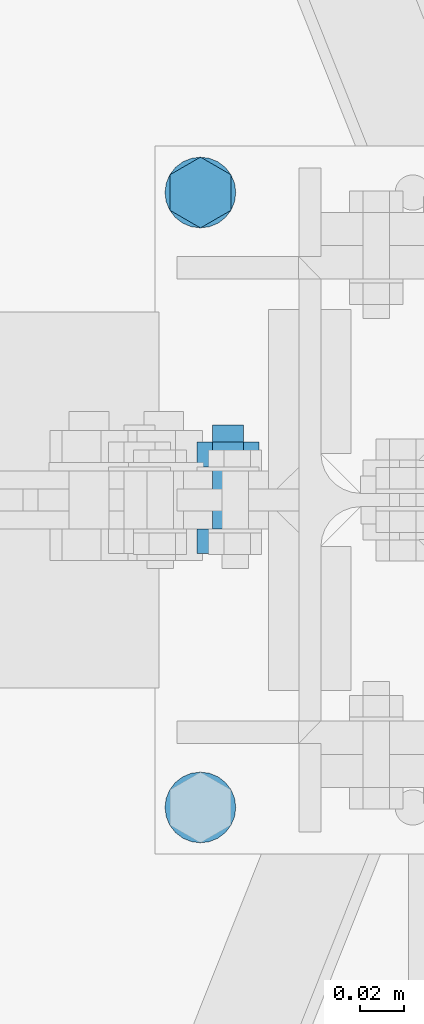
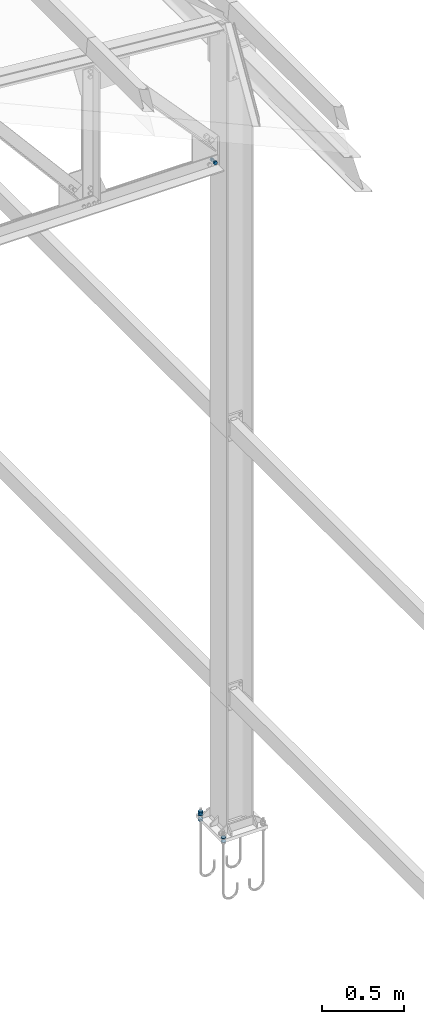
# One storey, part 110 of 251: 10 mechanical fasteners.
"""IFC4 building model written with IfcOpenShell, lengths in metres."""

import ifcopenshell
import ifcopenshell.guid

model = None  # the IFC model being written
_history = None  # IfcOwnerHistory: only IFC2X3 demands one
_inside = {}  # id of a spatial element -> (the spatial element, [elements in it])
_under = {}  # id of a project, library or spatial element -> (it, [spatial elements below it])
_declared = {}  # id of a project -> (the project, [libraries it declares])
_typed = {}  # id of a type object -> (the type object, [elements of that type])
_made_of = {}  # id of a material, layer set ... -> (it, [elements and type objects made of it])


def new_model(schema):
    """Start an empty IFC model of exactly this schema.

    Asked for "IFC4X3", IfcOpenShell would pick the latest addendum, in which some entities
    have other attributes; the version numbers below select the first issue.
    IFC2X3 requires an IfcOwnerHistory on every rooted entity: one is made here for all.
    """
    global model, _history
    if schema == "IFC4X3":
        model = ifcopenshell.file(schema_version=(4, 3, 0, 0))
    else:
        model = ifcopenshell.file(schema=schema)
    _inside.clear()
    _under.clear()
    _declared.clear()
    _typed.clear()
    _made_of.clear()
    _history = None
    if model.schema == "IFC2X3":
        org = make("IfcOrganization", Name="unknown")
        user = make(
            "IfcPersonAndOrganization",
            ThePerson=make("IfcPerson", FamilyName="unknown"),
            TheOrganization=org,
        )
        app = make(
            "IfcApplication",
            ApplicationDeveloper=org,
            Version="unknown",
            ApplicationFullName="unknown",
            ApplicationIdentifier="unknown",
        )
        _history = make(
            "IfcOwnerHistory",
            OwningUser=user,
            OwningApplication=app,
            ChangeAction="ADDED",
            CreationDate=0,
        )
    return model


def make(cls, **values):
    """One entity of the class cls with the attributes given. An attribute that is None is left unset."""
    return model.create_entity(
        cls, **{name: value for name, value in values.items() if value is not None}
    )


def rooted(cls, **values):
    """An entity with a GlobalId (a new one), such as an element, a storey or a relation."""
    return make(cls, GlobalId=ifcopenshell.guid.new(), OwnerHistory=_history, **values)


def si_unit(unit_type, name, prefix=None):
    """IfcSIUnit, for example si_unit("LENGTHUNIT", "METRE", prefix="MILLI")."""
    return make("IfcSIUnit", UnitType=unit_type, Prefix=prefix, Name=name)


def assignment(units):
    """IfcUnitAssignment: the units of a project."""
    return None if units is None else make("IfcUnitAssignment", Units=units)


def point(xyz):
    """IfcCartesianPoint."""
    return None if xyz is None else make("IfcCartesianPoint", Coordinates=xyz)


def direction(xyz):
    """IfcDirection."""
    return None if xyz is None else make("IfcDirection", DirectionRatios=xyz)


def frame(location, z_axis=None, x_axis=None):
    """IfcAxis2Placement3D, a coordinate frame: its origin and axes. An axis left out is left unset."""
    return make(
        "IfcAxis2Placement3D",
        Location=point(location),
        Axis=direction(z_axis),
        RefDirection=direction(x_axis),
    )


def origin_with_axes():
    """The frame at (0, 0, 0) with the z axis (0, 0, 1) and the x axis (1, 0, 0) written out."""
    return frame((0.0, 0.0, 0.0), z_axis=(0.0, 0.0, 1.0), x_axis=(1.0, 0.0, 0.0))


def place(relative_to, where):
    """IfcLocalPlacement: puts the frame where relative to a parent placement (None: the world)."""
    return make(
        "IfcLocalPlacement", PlacementRelTo=relative_to, RelativePlacement=where
    )


def context(
    kind, dimensions, precision=None, world=None, true_north=None, identifier=None
):
    """IfcGeometricRepresentationContext, for example the 3D "Model" context."""
    return make(
        "IfcGeometricRepresentationContext",
        ContextIdentifier=identifier,
        ContextType=kind,
        CoordinateSpaceDimension=dimensions,
        Precision=precision,
        WorldCoordinateSystem=world,
        TrueNorth=true_north,
    )


def project(units=None, contexts=None):
    """IfcProject with its units and contexts."""
    return rooted(
        "IfcProject",
        Name="project",
        RepresentationContexts=contexts,
        UnitsInContext=assignment(units),
    )


def spatial(cls, under=None, at=None, **own):
    """A site, building, storey or space (cls), placed at a placement, below another one or the project."""
    s = rooted(cls, ObjectPlacement=at, **own)
    if under is not None:
        _under.setdefault(under.id(), (under, []))[1].append(s)
    return s


def polyline(points):
    """IfcPolyline through the points."""
    return make("IfcPolyline", Points=[point(p) for p in points])


def outline(outer, holes=None, kind="AREA"):
    """IfcArbitraryClosedProfileDef: a profile drawn as a closed curve; with holes, ...WithVoids."""
    if holes is None:
        return make("IfcArbitraryClosedProfileDef", ProfileType=kind, OuterCurve=outer)
    return make(
        "IfcArbitraryProfileDefWithVoids",
        ProfileType=kind,
        OuterCurve=outer,
        InnerCurves=holes,
    )


def extrude(swept, where, along, depth):
    """IfcExtrudedAreaSolid: the profile swept, set in the frame where, extruded along a direction by depth."""
    return make(
        "IfcExtrudedAreaSolid",
        SweptArea=swept,
        Position=where,
        ExtrudedDirection=direction(along),
        Depth=depth,
    )


def shape(context_of_items, identifier, shape_type, items):
    """IfcShapeRepresentation: the items that make up one representation, for example the "Body"."""
    return make(
        "IfcShapeRepresentation",
        ContextOfItems=context_of_items,
        RepresentationIdentifier=identifier,
        RepresentationType=shape_type,
        Items=items,
    )


def made_of(thing, what):
    """Note that an element or type object is made of a material, layer set ...; save() writes the relation."""
    if what is not None:
        _made_of.setdefault(what.id(), (what, []))[1].append(thing)
    return thing


def type_object(cls, material=None, **own):
    """A type object (cls), such as IfcWallType, which elements share."""
    return made_of(rooted(cls, **own), material)


def element(
    cls,
    number,
    at=None,
    inside=None,
    cuts=None,
    type_object=None,
    material=None,
    context=None,
    identifier="Body",
    shape_type=None,
    held_by="IfcProductDefinitionShape",
    body=None,
    shapes=None,
    **own,
):
    """One element of the class cls, such as IfcWall. Its Tag is "e" and its number.

    at: its placement. inside: the storey or other place that contains it. cuts: it is an
    opening in that element (IfcRelVoidsElement). A single representation is given by context,
    identifier, shape_type and body (its items); several are given by shapes. held_by: the class
    of the entity that holds the representations. save() writes the other relations.
    """
    e = rooted(cls, Tag="e%d" % number, ObjectPlacement=at, **own)
    if body is not None:
        shapes = [shape(context, identifier, shape_type, body)]
    if shapes is not None:
        e.Representation = make(held_by, Representations=shapes)
    if inside is not None:
        _inside.setdefault(inside.id(), (inside, []))[1].append(e)
    if cuts is not None:
        rooted(
            "IfcRelVoidsElement", RelatingBuildingElement=cuts, RelatedOpeningElement=e
        )
    if type_object is not None:
        _typed.setdefault(type_object.id(), (type_object, []))[1].append(e)
    return made_of(e, material)


def aggregate(whole, parts):
    """IfcRelAggregates: a whole, such as a stair, and the parts it consists of."""
    return rooted("IfcRelAggregates", RelatingObject=whole, RelatedObjects=parts)


def save(model, path):
    """Write the relations noted so far, then the file.

    IfcRelAggregates (storeys below a building ...), IfcRelContainedInSpatialStructure (elements
    in a storey), IfcRelDefinesByType, IfcRelAssociatesMaterial and IfcRelDeclares: one each for
    every whole, place, type object, material and project.
    """
    for whole, parts in _under.values():
        aggregate(whole, parts)
    for where, things in _inside.values():
        rooted(
            "IfcRelContainedInSpatialStructure",
            RelatedElements=things,
            RelatingStructure=where,
        )
    for kind, things in _typed.values():
        rooted("IfcRelDefinesByType", RelatedObjects=things, RelatingType=kind)
    for what, things in _made_of.values():
        rooted("IfcRelAssociatesMaterial", RelatedObjects=things, RelatingMaterial=what)
    for by, libraries in _declared.values():
        rooted("IfcRelDeclares", RelatingContext=by, RelatedDefinitions=libraries)
    model.write(path)


model = new_model("IFC4")

# Units and contexts
model_context = context("Model", 3, precision=1e-05, world=origin_with_axes())
ifc_project = project(units=[si_unit("LENGTHUNIT", "METRE"), si_unit("AREAUNIT", "SQUARE_METRE"), si_unit("VOLUMEUNIT", "CUBIC_METRE"), si_unit("MASSUNIT", "GRAM", prefix="KILO"), si_unit("TIMEUNIT", "SECOND"), si_unit("PLANEANGLEUNIT", "RADIAN"), si_unit("SOLIDANGLEUNIT", "STERADIAN"), si_unit("THERMODYNAMICTEMPERATUREUNIT", "DEGREE_CELSIUS")], contexts=[model_context])

# Site, building, storey
placement_1 = place(None, origin_with_axes())
site = spatial("IfcSite", under=ifc_project, at=placement_1, Name="Italia", CompositionType="ELEMENT")
building = spatial("IfcBuilding", under=site, at=placement_1, Name="Deposito", CompositionType="ELEMENT")
storey = spatial("IfcBuildingStorey", under=building, at=placement_1, Name="Storey 0", CompositionType="ELEMENT", Elevation=0.0)

# Mechanical fasteners
mechanical_fastener_type_1 = type_object("IfcMechanicalFastenerType", Name="Collegamenti 0014_-001 0016_-054 0018_-056 0032_-002 0033_-058 0047_-003 0048_-060 0062_-004 0063_-005 0079_-008", PredefinedType="BOLT")
placement_2 = place(placement_1, origin_with_axes())
mechanical_fastener_1_placement = place(placement_2, origin_with_axes())
element("IfcMechanicalFastener", 1, at=mechanical_fastener_1_placement, inside=storey, type_object=mechanical_fastener_type_1, Name="Collegamenti 0014_-001 0016_-054 0018_-056 0032_-002 0033_-058 0047_-003 0048_-060 0062_-004 0063_-005 0079_-008", NominalDiameter=0.032, context=model_context, shape_type="SweptSolid", body=[
    extrude(outline(polyline([(0.0, 0.0), (-0.000545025, -0.00414085), (-0.00214338, -0.00799942), (-0.00468588, -0.0113144), (-0.0079999, -0.0138569), (-0.0118585, -0.0154552), (-0.0159998, -0.0160007), (-0.0201411, -0.0154552), (-0.0239997, -0.0138569), (-0.0273137, -0.0113144), (-0.0298562, -0.00799942), (-0.0314546, -0.00414085), (-0.0319996, 0.0), (-0.0314546, 0.00414085), (-0.0298562, 0.00799942), (-0.0273137, 0.0113144), (-0.0239997, 0.0138569), (-0.0201411, 0.0154552), (-0.0159998, 0.0160007), (-0.0118585, 0.0154552), (-0.0079999, 0.0138569), (-0.00468588, 0.0113144), (-0.00214338, 0.00799942), (-0.000545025, 0.00414085), (0.0, 0.0)])), frame((19.8605, 4.877, 0.075), z_axis=(0.0, 0.0, 1.0), x_axis=(0.0, 1.0, 0.0)), (0.0, 0.0, 1.0), 0.00399999),
])
mechanical_fastener_type_2 = type_object("IfcMechanicalFastenerType", Name="Collegamenti 0014_-001 0016_-054 0018_-056 0032_-002 0033_-058 0047_-003 0048_-060 0062_-004 0063_-005 0079_-008", PredefinedType="BOLT")
mechanical_fastener_2_placement = place(placement_2, origin_with_axes())
element("IfcMechanicalFastener", 2, at=mechanical_fastener_2_placement, inside=storey, type_object=mechanical_fastener_type_2, Name="Collegamenti 0014_-001 0016_-054 0018_-056 0032_-002 0033_-058 0047_-003 0048_-060 0062_-004 0063_-005 0079_-008", NominalDiameter=0.032, context=model_context, shape_type="SweptSolid", body=[
    extrude(outline(polyline([(0.0, 0.0), (-0.000545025, -0.00414085), (-0.00214338, -0.00799942), (-0.00468588, -0.0113144), (-0.0079999, -0.0138569), (-0.0118585, -0.0154552), (-0.0159998, -0.0160007), (-0.0201411, -0.0154552), (-0.0239997, -0.0138569), (-0.0273137, -0.0113144), (-0.0298562, -0.00799942), (-0.0314546, -0.00414085), (-0.0319996, 0.0), (-0.0314546, 0.00414085), (-0.0298562, 0.00799942), (-0.0273137, 0.0113144), (-0.0239997, 0.0138569), (-0.0201411, 0.0154552), (-0.0159998, 0.0160007), (-0.0118585, 0.0154552), (-0.0079999, 0.0138569), (-0.00468588, 0.0113144), (-0.00214338, 0.00799942), (-0.000545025, 0.00414085), (0.0, 0.0)])), frame((19.8605, 4.877, 0.046), z_axis=(0.0, 0.0, 1.0), x_axis=(0.0, 1.0, 0.0)), (0.0, 0.0, 1.0), 0.004),
])
mechanical_fastener_type_3 = type_object("IfcMechanicalFastenerType", Name="Collegamenti 0014_-001 0016_-054 0018_-056 0032_-002 0033_-058 0047_-003 0048_-060 0062_-004 0063_-005 0079_-008", PredefinedType="BOLT")
mechanical_fastener_3_placement = place(placement_2, origin_with_axes())
element("IfcMechanicalFastener", 3, at=mechanical_fastener_3_placement, inside=storey, type_object=mechanical_fastener_type_3, Name="Collegamenti 0014_-001 0016_-054 0018_-056 0032_-002 0033_-058 0047_-003 0048_-060 0062_-004 0063_-005 0079_-008", NominalDiameter=0.0159998, context=model_context, shape_type="SweptSolid", body=[
    extrude(outline(polyline([(0.0, 0.0), (-0.0159998, 0.0), (-0.0239997, 0.0138569), (-0.0159998, 0.0277138), (0.0, 0.0277138), (0.00800037, 0.0138569), (0.0, 0.0)])), frame((19.8744, 5.147, 0.079), z_axis=(0.0, 0.0, 1.0), x_axis=(0.0, 1.0, 0.0)), (0.0, 0.0, 1.0), 0.0128),
])
mechanical_fastener_type_4 = type_object("IfcMechanicalFastenerType", Name="Collegamenti 0014_-001 0016_-054 0018_-056 0032_-002 0033_-058 0047_-003 0048_-060 0062_-004 0063_-005 0079_-008", PredefinedType="BOLT")
mechanical_fastener_4_placement = place(placement_2, origin_with_axes())
element("IfcMechanicalFastener", 4, at=mechanical_fastener_4_placement, inside=storey, type_object=mechanical_fastener_type_4, Name="Collegamenti 0014_-001 0016_-054 0018_-056 0032_-002 0033_-058 0047_-003 0048_-060 0062_-004 0063_-005 0079_-008", NominalDiameter=0.0159998, context=model_context, shape_type="SweptSolid", body=[
    extrude(outline(polyline([(0.0, 0.0), (-0.0159998, 0.0), (-0.0239997, 0.0138569), (-0.0159998, 0.0277138), (0.0, 0.0277138), (0.00800037, 0.0138569), (0.0, 0.0)])), frame((19.8744, 5.147, 0.0918), z_axis=(0.0, 0.0, 1.0), x_axis=(0.0, 1.0, 0.0)), (0.0, 0.0, 1.0), 0.0128),
])
mechanical_fastener_type_5 = type_object("IfcMechanicalFastenerType", Name="Collegamenti 0014_-001 0016_-054 0018_-056 0032_-002 0033_-058 0047_-003 0048_-060 0062_-004 0063_-005 0079_-008", PredefinedType="BOLT")
mechanical_fastener_5_placement = place(placement_2, origin_with_axes())
element("IfcMechanicalFastener", 5, at=mechanical_fastener_5_placement, inside=storey, type_object=mechanical_fastener_type_5, Name="Collegamenti 0014_-001 0016_-054 0018_-056 0032_-002 0033_-058 0047_-003 0048_-060 0062_-004 0063_-005 0079_-008", NominalDiameter=0.0159998, context=model_context, shape_type="SweptSolid", body=[
    extrude(outline(polyline([(0.0, 0.0), (-0.0159998, 0.0), (-0.0239997, 0.0138569), (-0.0159998, 0.0277138), (0.0, 0.0277138), (0.00800037, 0.0138569), (0.0, 0.0)])), frame((19.8744, 5.147, 0.0332), z_axis=(0.0, 0.0, 1.0), x_axis=(0.0, 1.0, 0.0)), (0.0, 0.0, 1.0), 0.0128),
])
mechanical_fastener_type_6 = type_object("IfcMechanicalFastenerType", Name="Collegamenti 0014_-001 0016_-054 0018_-056 0032_-002 0033_-058 0047_-003 0048_-060 0062_-004 0063_-005 0079_-008", PredefinedType="BOLT")
mechanical_fastener_6_placement = place(placement_2, origin_with_axes())
element("IfcMechanicalFastener", 6, at=mechanical_fastener_6_placement, inside=storey, type_object=mechanical_fastener_type_6, Name="Collegamenti 0014_-001 0016_-054 0018_-056 0032_-002 0033_-058 0047_-003 0048_-060 0062_-004 0063_-005 0079_-008", NominalDiameter=0.032, context=model_context, shape_type="SweptSolid", body=[
    extrude(outline(polyline([(0.0, 0.0), (-0.000545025, -0.00414085), (-0.00214338, -0.00799942), (-0.00468588, -0.0113144), (-0.0079999, -0.0138569), (-0.0118585, -0.0154552), (-0.0159998, -0.0160007), (-0.0201411, -0.0154552), (-0.0239997, -0.0138569), (-0.0273137, -0.0113144), (-0.0298562, -0.00799942), (-0.0314546, -0.00414085), (-0.0319996, 0.0), (-0.0314546, 0.00414085), (-0.0298562, 0.00799942), (-0.0273137, 0.0113144), (-0.0239997, 0.0138569), (-0.0201411, 0.0154552), (-0.0159998, 0.0160007), (-0.0118585, 0.0154552), (-0.0079999, 0.0138569), (-0.00468588, 0.0113144), (-0.00214338, 0.00799942), (-0.000545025, 0.00414085), (0.0, 0.0)])), frame((19.8605, 5.155, 0.075), z_axis=(0.0, 0.0, 1.0), x_axis=(0.0, 1.0, 0.0)), (0.0, 0.0, 1.0), 0.00399999),
])
mechanical_fastener_type_7 = type_object("IfcMechanicalFastenerType", Name="Collegamenti 0014_-001 0016_-054 0018_-056 0032_-002 0033_-058 0047_-003 0048_-060 0062_-004 0063_-005 0079_-008", PredefinedType="BOLT")
mechanical_fastener_7_placement = place(placement_2, origin_with_axes())
element("IfcMechanicalFastener", 7, at=mechanical_fastener_7_placement, inside=storey, type_object=mechanical_fastener_type_7, Name="Collegamenti 0014_-001 0016_-054 0018_-056 0032_-002 0033_-058 0047_-003 0048_-060 0062_-004 0063_-005 0079_-008", NominalDiameter=0.032, context=model_context, shape_type="SweptSolid", body=[
    extrude(outline(polyline([(0.0, 0.0), (-0.000545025, -0.00414085), (-0.00214338, -0.00799942), (-0.00468588, -0.0113144), (-0.0079999, -0.0138569), (-0.0118585, -0.0154552), (-0.0159998, -0.0160007), (-0.0201411, -0.0154552), (-0.0239997, -0.0138569), (-0.0273137, -0.0113144), (-0.0298562, -0.00799942), (-0.0314546, -0.00414085), (-0.0319996, 0.0), (-0.0314546, 0.00414085), (-0.0298562, 0.00799942), (-0.0273137, 0.0113144), (-0.0239997, 0.0138569), (-0.0201411, 0.0154552), (-0.0159998, 0.0160007), (-0.0118585, 0.0154552), (-0.0079999, 0.0138569), (-0.00468588, 0.0113144), (-0.00214338, 0.00799942), (-0.000545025, 0.00414085), (0.0, 0.0)])), frame((19.8605, 5.155, 0.046), z_axis=(0.0, 0.0, 1.0), x_axis=(0.0, 1.0, 0.0)), (0.0, 0.0, 1.0), 0.004),
])
mechanical_fastener_type_8 = type_object("IfcMechanicalFastenerType", Name="Reticolare 3", PredefinedType="BOLT")
mechanical_fastener_8_placement = place(placement_2, origin_with_axes())
element("IfcMechanicalFastener", 8, at=mechanical_fastener_8_placement, inside=storey, type_object=mechanical_fastener_type_8, Name="Reticolare 3", NominalDiameter=0.0139997, context=model_context, shape_type="SweptSolid", body=[
    extrude(outline(polyline([(0.0, 0.0), (-0.0139999, 0.0), (-0.0209999, 0.0121241), (-0.0139999, 0.0242486), (0.0, 0.0242486), (0.00699997, 0.0121241), (0.0, 0.0)])), frame((19.88, 4.987, 4.99688), z_axis=(0.0, -1.0, 0.0), x_axis=(1.0, 0.0, 0.0)), (0.0, 0.0, 1.0), 0.0112),
])
mechanical_fastener_type_9 = type_object("IfcMechanicalFastenerType", Name="Reticolare 3", PredefinedType="BOLT")
mechanical_fastener_9_placement = place(placement_2, origin_with_axes())
element("IfcMechanicalFastener", 9, at=mechanical_fastener_9_placement, inside=storey, type_object=mechanical_fastener_type_9, Name="Reticolare 3", NominalDiameter=0.014, context=model_context, shape_type="SweptSolid", body=[
    extrude(outline(polyline([(0.0, 0.0), (-0.000238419, -0.0018115), (-0.000938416, -0.00349998), (-0.0020504, -0.00494957), (-0.00349998, -0.00606203), (-0.00518799, -0.00676155), (-0.00699997, -0.00699997), (-0.00881195, -0.00676155), (-0.0105, -0.00606203), (-0.0119495, -0.00494957), (-0.0130615, -0.00349998), (-0.0137615, -0.0018115), (-0.0139999, 0.0), (-0.0137615, 0.0018115), (-0.0130615, 0.00349998), (-0.0119495, 0.00494957), (-0.0105, 0.00606203), (-0.00881195, 0.00676155), (-0.00699997, 0.00699997), (-0.00518799, 0.00676155), (-0.00349998, 0.00606203), (-0.0020504, 0.00494957), (-0.000938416, 0.00349998), (-0.000238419, 0.0018115), (0.0, 0.0)])), frame((19.88, 5.034, 5.009), z_axis=(0.0, -1.0, 0.0), x_axis=(1.0, 0.0, 0.0)), (0.0, 0.0, 1.0), 0.0469999),
])
mechanical_fastener_type_10 = type_object("IfcMechanicalFastenerType", Name="Reticolare 3", PredefinedType="BOLT")
mechanical_fastener_10_placement = place(placement_2, origin_with_axes())
element("IfcMechanicalFastener", 10, at=mechanical_fastener_10_placement, inside=storey, type_object=mechanical_fastener_type_10, Name="Reticolare 3", NominalDiameter=0.0139997, context=model_context, shape_type="SweptSolid", body=[
    extrude(outline(polyline([(0.0, 0.0), (-0.0139999, 0.0), (-0.0209999, 0.0121241), (-0.0139999, 0.0242486), (0.0, 0.0242486), (0.00699997, 0.0121241), (0.0, 0.0)])), frame((19.88, 5.0262, 4.99688), z_axis=(0.0, -1.0, 0.0), x_axis=(1.0, 0.0, 0.0)), (0.0, 0.0, 1.0), 0.0112),
])

save(model, "model.ifc")
